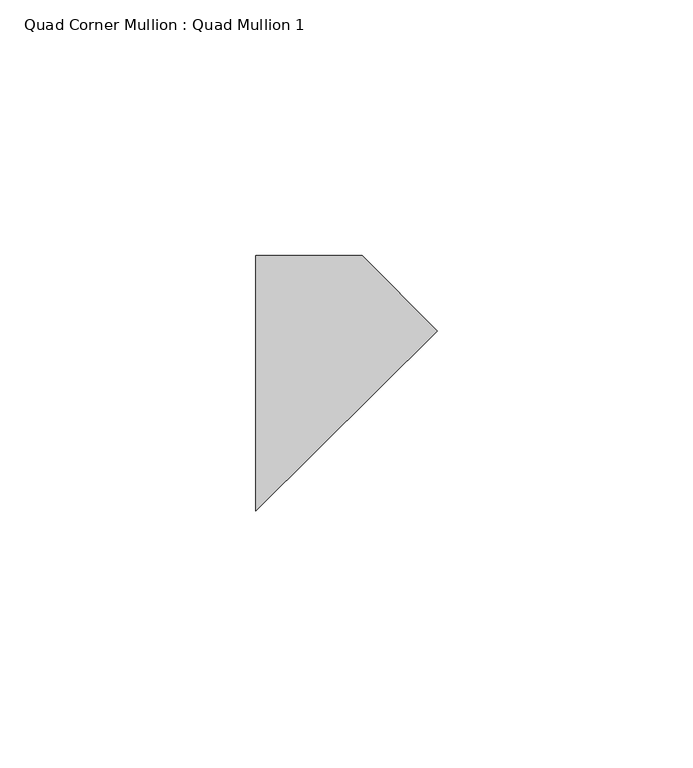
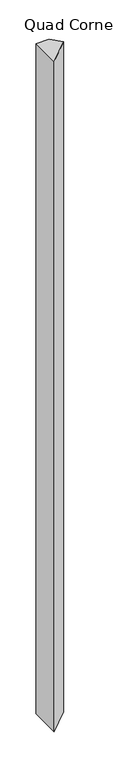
"""IFC4 building model written with IfcOpenShell, lengths in millimetres: member geometry, Quad Corner Mullion : Quad Mullion 1."""

from ifc_helpers import new_model, si_unit, frame, origin, place, context, project, spatial, polyline, outline, extrude, source, transform, mapped, element, save


def quad_corner_mullion_quad_mullion_1_73dc5718(model_context):
    return source(origin(), model_context, "Body", "SweptSolid", [
        extrude(outline(polyline([(25.0929703, 10.1955497), (-10.4214391, -25.0), (-10.4214391, 25.0), (10.4214391, 25.0), (25.0929703, 10.1955497)])), frame((0.0, 0.0, -1127.1560249), z_axis=(0.0, 0.0, 1.0), x_axis=(1.0, 0.0, 0.0)), (0.0, 0.0, 1.0), 1127.1560249),
    ])


if __name__ == "__main__":
    model = new_model("IFC4")
    model_context = context("Model", 3, world=origin())
    ifc_project = project(units=[si_unit("LENGTHUNIT", "METRE", prefix="MILLI")], contexts=[model_context])
    site = spatial("IfcSite", under=ifc_project)
    building = spatial("IfcBuilding", under=site)
    placement = place(None, origin())
    quad_corner_mullion_quad_mullion_1_shape = quad_corner_mullion_quad_mullion_1_73dc5718(model_context)
    element("IfcMember", 1, ObjectType="Quad Corner Mullion : Quad Mullion 1", at=placement, inside=building, context=model_context, shape_type="MappedRepresentation", body=[
        mapped(quad_corner_mullion_quad_mullion_1_shape, transform((0.0, 0.0, 0.0), x_axis=(1.0, 0.0, 0.0), y_axis=(0.0, 1.0, 0.0), z_axis=(0.0, 0.0, 1.0))),
    ])
    save(model, "model.ifc")
